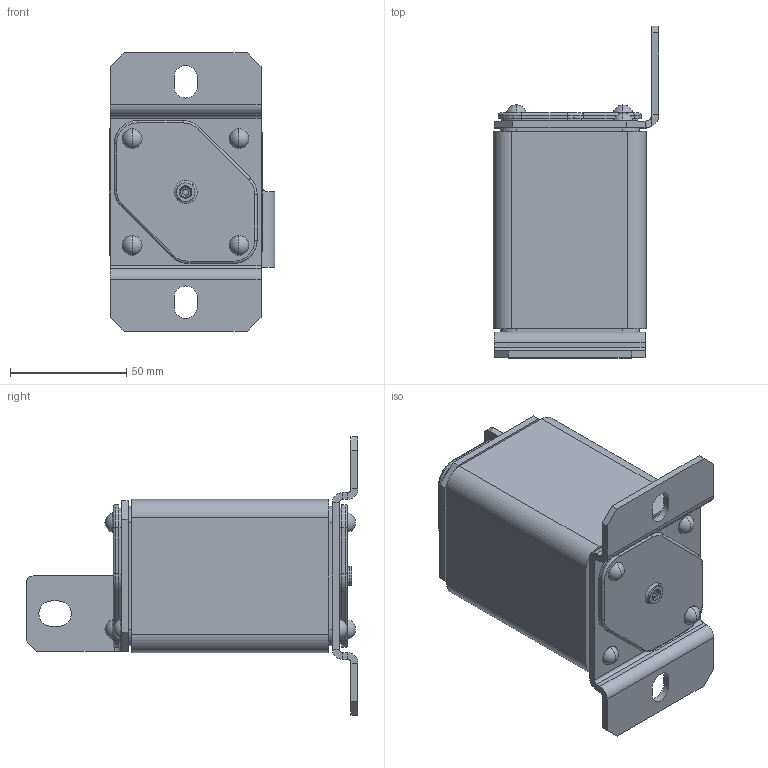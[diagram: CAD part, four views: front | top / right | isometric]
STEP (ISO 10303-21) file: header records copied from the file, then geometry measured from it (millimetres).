
FILE_DESCRIPTION (( 'STEP AP214' ), '1' );
FILE_NAME ('Ïðåäîõðàíèòåëü ÏÏ57-37680-Ñ-XXXA-XXXX-ÊÝÀÇ.STEP', '2023-05-11T12:18:23', ( '' ), ( '' ), 'SwSTEP 2.0', 'SolidWorks 2018', '' );
FILE_SCHEMA (( 'AUTOMOTIVE_DESIGN' ));
Length unit declared in the file: millimetre
Products named in the file (1): Ïðåäîõðàíèòåëü ÏÏ57-37680-Ñ-XXXA-XXXX-ÊÝÀÇ
Bounding box: 71.5 x 143 x 120 mm (x, y, z)
Volume: 428510.6 mm3; surface area: 57818 mm2
Topology: 1 solids, 15 shells, 387 faces, 885 edges, 549 vertices
Faces by surface type: plane 164, cylinder 151, torus 40, sphere 16, cone 16
Entity records: 15285 total; most frequent: DIRECTION 2096, CARTESIAN_POINT 1864, ORIENTED_EDGE 1770, EDGE_CURVE 885, AXIS2_PLACEMENT_3D 825, VERTEX_POINT 549, LINE 446, VECTOR 446
